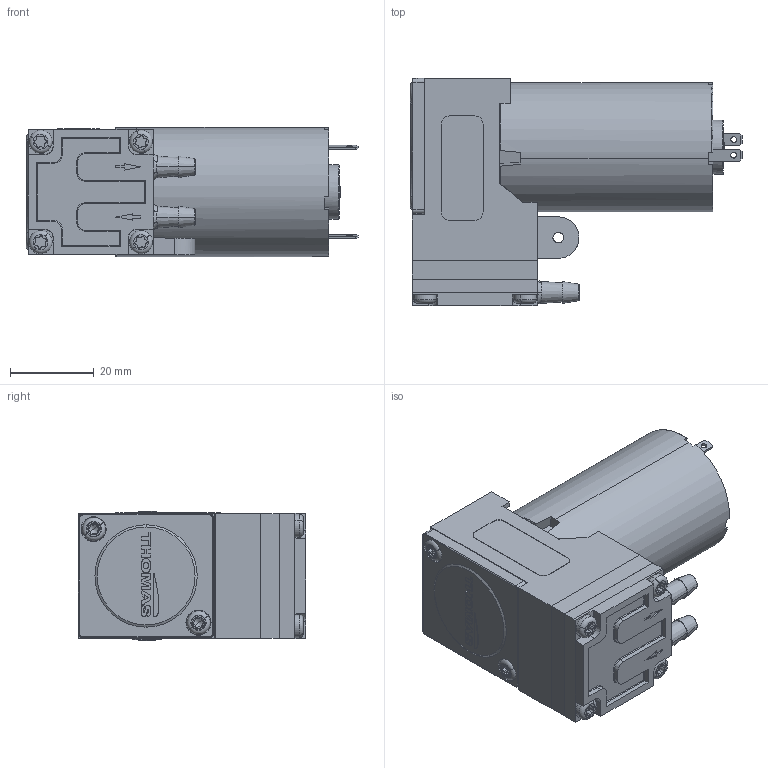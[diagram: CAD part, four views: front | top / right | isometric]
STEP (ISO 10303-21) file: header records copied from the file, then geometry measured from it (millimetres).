
FILE_DESCRIPTION (( 'STEP AP214' ), '1' );
FILE_NAME ('14100304-18_Kishan.STEP', '2019-08-28T10:24:36', ( '' ), ( '' ), 'SwSTEP 2.0', 'SolidWorks 2018', '' );
FILE_SCHEMA (( 'AUTOMOTIVE_DESIGN' ));
Length unit declared in the file: millimetre
Products named in the file (1): 14100304-18_Kishan
Bounding box: 79.5 x 54.4 x 30.98 mm (x, y, z)
Volume: 78813.5 mm3; surface area: 15433.2 mm2
Topology: 1 solids, 1 shells, 1014 faces, 2872 edges, 1902 vertices
Faces by surface type: plane 692, cylinder 158, cone 67, torus 51, bspline 46
Entity records: 34823 total; most frequent: CARTESIAN_POINT 8707, ORIENTED_EDGE 5736, DIRECTION 5008, EDGE_CURVE 2868, VECTOR 2176, LINE 2176, VERTEX_POINT 1902, AXIS2_PLACEMENT_3D 1416
